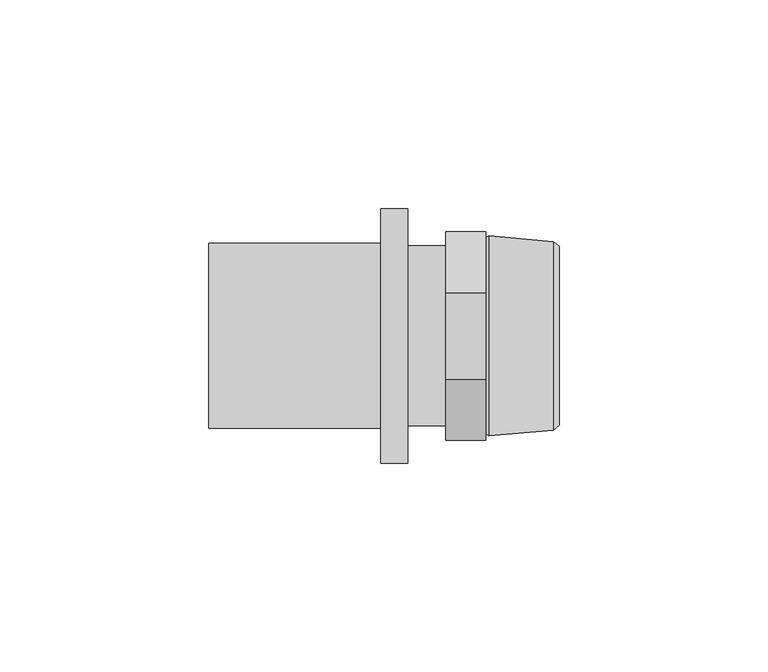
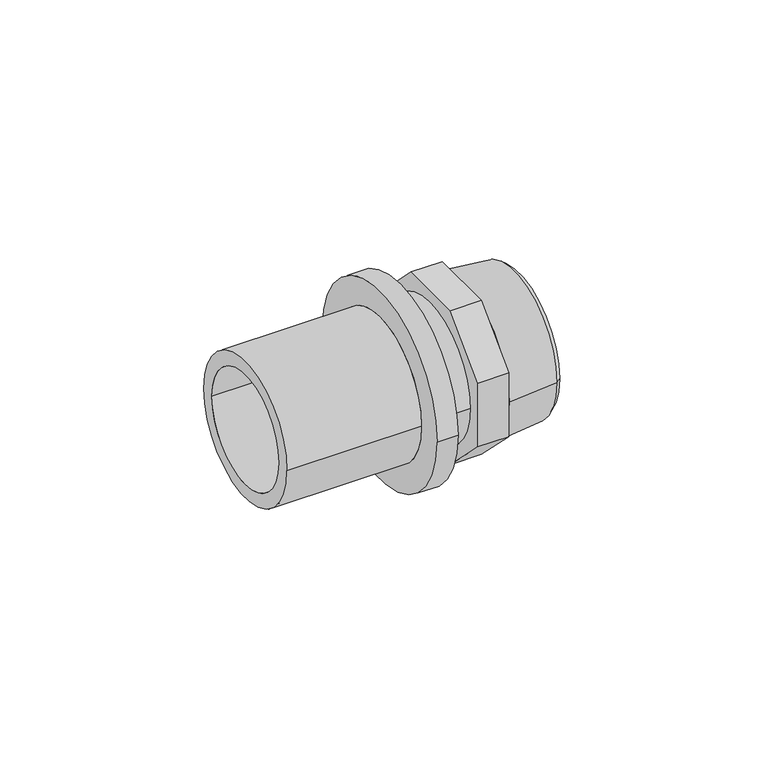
"""IFC4 building model written with IfcOpenShell, lengths in millimetres: pipe fitting geometry, REHAU_RAUTITAN_Adaptor_RX+ stabil, with external thread : REHAU_RAUTITAN_Adaptor_RX+ stabil, with external thread."""

from ifc_helpers import new_model, si_unit, point, frame, origin, origin_2d, place, context, project, spatial, polyline, circle_curve, trimmed, segment, composite_curve, outline, extrude, source, transform, mapped, element, save
from ifc_brep_helpers import plane_surface, cylinder_surface, revolved_surface, advanced_brep


def pipe_fitting_1aa5390b(model_context):
    return source(origin(), model_context, "Body", "SolidModel", [
        advanced_brep(
        [(10.6032803, 18.75, 0.0), (10.6032803, -18.75, 0.0), (27.2, -18.75, 0.0), (27.2, 18.75, 0.0), (9.5, 17.6467197, 0.0), (9.5, -17.6467197, 0.0), (10.2406902, 24.0, 0.0), (10.2406902, -24.0, 0.0), (9.5, -23.5, 0.0), (9.5, 23.5, 0.0), (25.7000007, 22.6, 0.0), (25.7000007, -22.6, 0.0), (27.2, 21.45, 0.0), (27.2, -21.45, 0.0)],
        [
            (0, 1, circle_curve(frame((10.6032803, 0.0, 0.0), z_axis=(-1.0, 0.0, 0.0), x_axis=(0.0, -1.0, 0.0)), 18.75)),
            (1, 2),
            (2, 3, circle_curve(frame((27.2, 0.0, 0.0), z_axis=(1.0, 0.0, 0.0), x_axis=(0.0, -1.0, 0.0)), 18.75)),
            (3, 0),
            (4, 5, circle_curve(frame((9.5, 0.0, 0.0), z_axis=(-1.0, 0.0, 0.0), x_axis=(0.0, -1.0, 0.0)), 17.6467197)),
            (5, 1),
            (0, 4),
            (6, 7, circle_curve(frame((10.2406902, 0.0, 0.0), z_axis=(-1.0, 0.0, 0.0), x_axis=(0.0, -1.0, 0.0)), 24.0)),
            (7, 8),
            (8, 9, circle_curve(frame((9.5, 0.0, 0.0), z_axis=(1.0, 0.0, 0.0), x_axis=(0.0, -1.0, 0.0)), 23.5)),
            (9, 6),
            (10, 11, circle_curve(frame((25.7000007, 0.0, 0.0), z_axis=(-1.0, 0.0, 0.0), x_axis=(0.0, -1.0, 0.0)), 22.6)),
            (11, 7),
            (6, 10),
            (12, 13, circle_curve(frame((27.2, 0.0, 0.0), z_axis=(-1.0, 0.0, 0.0), x_axis=(0.0, -1.0, 0.0)), 21.45)),
            (13, 11),
            (10, 12),
            (1, 0, circle_curve(frame((10.6032803, 0.0, 0.0), z_axis=(-1.0, 0.0, 0.0), x_axis=(0.0, 1.0, 0.0)), 18.75)),
            (3, 2, circle_curve(frame((27.2, 0.0, 0.0), z_axis=(1.0, 0.0, 0.0), x_axis=(0.0, 1.0, 0.0)), 18.75)),
            (5, 4, circle_curve(frame((9.5, 0.0, 0.0), z_axis=(-1.0, 0.0, 0.0), x_axis=(0.0, 1.0, 0.0)), 17.6467197)),
            (8, 9, circle_curve(frame((9.5, 0.0, 0.0), z_axis=(-1.0, 0.0, 0.0), x_axis=(0.0, 1.0, 0.0)), 23.5)),
            (7, 6, circle_curve(frame((10.2406902, 0.0, 0.0), z_axis=(-1.0, 0.0, 0.0), x_axis=(0.0, 1.0, 0.0)), 24.0)),
            (11, 10, circle_curve(frame((25.7000007, 0.0, 0.0), z_axis=(-1.0, 0.0, 0.0), x_axis=(0.0, 1.0, 0.0)), 22.6)),
            (13, 12, circle_curve(frame((27.2, 0.0, 0.0), z_axis=(-1.0, 0.0, 0.0), x_axis=(0.0, 1.0, 0.0)), 21.45)),
        ],
        [
            revolved_surface(polyline([(27.2, -18.75, 0.0), (10.6032803, -18.75, 0.0)]), (0.0, 0.0, 0.0), (1.0, 0.0, 0.0)),
            revolved_surface(polyline([(10.6032803, -18.75, 0.0), (9.5, -17.6467197, 0.0)]), (0.0, 0.0, 0.0), (1.0, 0.0, 0.0)),
            revolved_surface(polyline([(9.5, -23.5, 0.0), (10.2406902, -24.0, 0.0)]), (0.0, 0.0, 0.0), (1.0, 0.0, 0.0)),
            revolved_surface(polyline([(10.2406902, -24.0, 0.0), (25.7000007, -22.6, 0.0)]), (0.0, 0.0, 0.0), (1.0, 0.0, 0.0)),
            revolved_surface(polyline([(25.7000007, -22.6, 0.0), (27.2, -21.45, 0.0)]), (0.0, 0.0, 0.0), (1.0, 0.0, 0.0)),
            revolved_surface(polyline([(27.2, 18.75, 0.0), (10.6032803, 18.75, 0.0)]), (0.0, 0.0, 0.0), (1.0, 0.0, 0.0)),
            revolved_surface(polyline([(10.6032803, 18.75, 0.0), (9.5, 17.6467197, 0.0)]), (0.0, 0.0, 0.0), (1.0, 0.0, 0.0)),
            plane_surface(frame((9.5, 0.0, 0.0), z_axis=(-1.0, 0.0, 0.0), x_axis=(0.0, 1.0, 0.0))),
            revolved_surface(polyline([(9.5, 23.5, 0.0), (10.2406902, 24.0, 0.0)]), (0.0, 0.0, 0.0), (1.0, 0.0, 0.0)),
            revolved_surface(polyline([(10.2406902, 24.0, 0.0), (25.7000007, 22.6, 0.0)]), (0.0, 0.0, 0.0), (1.0, 0.0, 0.0)),
            revolved_surface(polyline([(25.7000007, 22.6, 0.0), (27.2, 21.45, 0.0)]), (0.0, 0.0, 0.0), (1.0, 0.0, 0.0)),
            plane_surface(frame((27.2, 0.0, 0.0), z_axis=(1.0, 0.0, 0.0), x_axis=(0.0, 1.0, 0.0))),
        ],
        [
            (0, [[1, 2, 3, 4]]),
            (1, [[5, 6, -1, 7]]),
            (2, [[8, 9, 10, 11]]),
            (3, [[12, 13, -8, 14]]),
            (4, [[15, 16, -12, 17]]),
            (5, [[18, -4, 19, -2]]),
            (6, [[20, -7, -18, -6]]),
            (7, [[21, -10], [-20, -5]]),
            (8, [[22, -11, -21, -9]]),
            (9, [[23, -14, -22, -13]]),
            (10, [[24, -17, -23, -16]]),
            (11, [[-24, -15], [-19, -3]]),
        ],
    ),
        extrude(outline(polyline([(-10.3553391, -25.0), (-25.0, -10.3553391), (-25.0, 10.3553391), (-10.3553391, 25.0), (10.3553391, 25.0), (25.0, 10.3553391), (25.0, -10.3553391), (10.3553391, -25.0), (-10.3553391, -25.0)]), holes=[composite_curve([segment(trimmed(circle_curve(origin_2d(), 17.75), [point((-17.75, 0.0))], [point((17.75, 0.0))], True, "CARTESIAN"), True, "CONTINUOUS"), segment(trimmed(circle_curve(origin_2d(), 17.75), [point((17.75, 0.0))], [point((-17.75, 0.0))], True, "CARTESIAN"), True, "CONTINUOUS")], self_intersect=False)]), frame((0.0, 0.0, 0.0), z_axis=(1.0, 0.0, 0.0), x_axis=(0.0, 1.0, 0.0)), (0.0, 0.0, 1.0), 9.5),
        advanced_brep(
        [(-56.9, 17.75, 0.0), (-56.9, -17.75, 0.0), (0.0, -17.75, 0.0), (0.0, 17.75, 0.0), (-15.6, 22.15, 0.0), (-15.6, -22.15, 0.0), (-56.9, -22.15, 0.0), (-56.9, 22.15, 0.0), (-9.2, 30.5, 0.0), (-9.2, -30.5, 0.0), (-15.6, -30.5, 0.0), (-15.6, 30.5, 0.0), (0.0, 21.55, 0.0), (0.0, -21.55, 0.0), (-9.2, -21.55, 0.0), (-9.2, 21.55, 0.0)],
        [
            (0, 1, circle_curve(frame((-56.9, 0.0, 0.0), z_axis=(-1.0, 0.0, 0.0), x_axis=(0.0, -1.0, 0.0)), 17.75)),
            (1, 2),
            (2, 3, circle_curve(frame((0.0, 0.0, 0.0), z_axis=(1.0, 0.0, 0.0), x_axis=(0.0, -1.0, 0.0)), 17.75)),
            (3, 0),
            (4, 5, circle_curve(frame((-15.6, 0.0, 0.0), z_axis=(-1.0, 0.0, 0.0), x_axis=(0.0, -1.0, 0.0)), 22.15)),
            (5, 6),
            (6, 7, circle_curve(frame((-56.9, 0.0, 0.0), z_axis=(1.0, 0.0, 0.0), x_axis=(0.0, -1.0, 0.0)), 22.15)),
            (7, 4),
            (8, 9, circle_curve(frame((-9.2, 0.0, 0.0), z_axis=(-1.0, 0.0, 0.0), x_axis=(0.0, -1.0, 0.0)), 30.5)),
            (9, 10),
            (10, 11, circle_curve(frame((-15.6, 0.0, 0.0), z_axis=(1.0, 0.0, 0.0), x_axis=(0.0, -1.0, 0.0)), 30.5)),
            (11, 8),
            (12, 13, circle_curve(frame((0.0, 0.0, 0.0), z_axis=(-1.0, 0.0, 0.0), x_axis=(0.0, -1.0, 0.0)), 21.55)),
            (13, 14),
            (14, 15, circle_curve(frame((-9.2, 0.0, 0.0), z_axis=(1.0, 0.0, 0.0), x_axis=(0.0, -1.0, 0.0)), 21.55)),
            (15, 12),
            (12, 13, circle_curve(frame((0.0, 0.0, 0.0), z_axis=(1.0, 0.0, 0.0), x_axis=(0.0, 1.0, 0.0)), 21.55)),
            (2, 3, circle_curve(frame((0.0, 0.0, 0.0), z_axis=(-1.0, 0.0, 0.0), x_axis=(0.0, 1.0, 0.0)), 17.75)),
            (1, 0, circle_curve(frame((-56.9, 0.0, 0.0), z_axis=(-1.0, 0.0, 0.0), x_axis=(0.0, 1.0, 0.0)), 17.75)),
            (6, 7, circle_curve(frame((-56.9, 0.0, 0.0), z_axis=(-1.0, 0.0, 0.0), x_axis=(0.0, 1.0, 0.0)), 22.15)),
            (5, 4, circle_curve(frame((-15.6, 0.0, 0.0), z_axis=(-1.0, 0.0, 0.0), x_axis=(0.0, 1.0, 0.0)), 22.15)),
            (10, 11, circle_curve(frame((-15.6, 0.0, 0.0), z_axis=(-1.0, 0.0, 0.0), x_axis=(0.0, 1.0, 0.0)), 30.5)),
            (9, 8, circle_curve(frame((-9.2, 0.0, 0.0), z_axis=(-1.0, 0.0, 0.0), x_axis=(0.0, 1.0, 0.0)), 30.5)),
            (14, 15, circle_curve(frame((-9.2, 0.0, 0.0), z_axis=(-1.0, 0.0, 0.0), x_axis=(0.0, 1.0, 0.0)), 21.55)),
        ],
        [
            revolved_surface(polyline([(0.0, -17.75, 0.0), (-56.9, -17.75, 0.0)]), (0.0, 0.0, 0.0), (1.0, 0.0, 0.0)),
            cylinder_surface(frame((0.0, 0.0, 0.0), z_axis=(1.0, 0.0, 0.0), x_axis=(0.0, -1.0, 0.0)), 22.15),
            cylinder_surface(frame((0.0, 0.0, 0.0), z_axis=(1.0, 0.0, 0.0), x_axis=(0.0, -1.0, 0.0)), 30.5),
            cylinder_surface(frame((0.0, 0.0, 0.0), z_axis=(1.0, 0.0, 0.0), x_axis=(0.0, -1.0, 0.0)), 21.55),
            plane_surface(frame((0.0, 0.0, 0.0), z_axis=(1.0, 0.0, 0.0), x_axis=(0.0, 1.0, 0.0))),
            revolved_surface(polyline([(0.0, 17.75, 0.0), (-56.9, 17.75, 0.0)]), (0.0, 0.0, 0.0), (1.0, 0.0, 0.0)),
            plane_surface(frame((-56.9, 0.0, 0.0), z_axis=(-1.0, 0.0, 0.0), x_axis=(0.0, 1.0, 0.0))),
            cylinder_surface(frame((0.0, 0.0, 0.0), z_axis=(1.0, 0.0, 0.0), x_axis=(0.0, 1.0, 0.0)), 22.15),
            plane_surface(frame((-15.6, 0.0, 0.0), z_axis=(-1.0, 0.0, 0.0), x_axis=(0.0, 1.0, 0.0))),
            cylinder_surface(frame((0.0, 0.0, 0.0), z_axis=(1.0, 0.0, 0.0), x_axis=(0.0, 1.0, 0.0)), 30.5),
            plane_surface(frame((-9.2, 0.0, 0.0), z_axis=(1.0, 0.0, 0.0), x_axis=(0.0, 1.0, 0.0))),
            cylinder_surface(frame((0.0, 0.0, 0.0), z_axis=(1.0, 0.0, 0.0), x_axis=(0.0, 1.0, 0.0)), 21.55),
        ],
        [
            (0, [[1, 2, 3, 4]]),
            (1, [[5, 6, 7, 8]]),
            (2, [[9, 10, 11, 12]]),
            (3, [[13, 14, 15, 16]]),
            (4, [[17, -13], [18, -3]]),
            (5, [[19, -4, -18, -2]]),
            (6, [[20, -7], [-19, -1]]),
            (7, [[21, -8, -20, -6]]),
            (8, [[22, -11], [-21, -5]]),
            (9, [[23, -12, -22, -10]]),
            (10, [[-23, -9], [24, -15]]),
            (11, [[-17, -16, -24, -14]]),
        ],
    ),
    ])


if __name__ == "__main__":
    model = new_model("IFC4")
    model_context = context("Model", 3, world=origin())
    ifc_project = project(units=[si_unit("LENGTHUNIT", "METRE", prefix="MILLI")], contexts=[model_context])
    site = spatial("IfcSite", under=ifc_project)
    building = spatial("IfcBuilding", under=site)
    placement = place(None, origin())
    pipe_fitting_shape = pipe_fitting_1aa5390b(model_context)
    element("IfcPipeFitting", 1, ObjectType="REHAU_RAUTITAN_Adaptor_RX+ stabil, with external thread : REHAU_RAUTITAN_Adaptor_RX+ stabil, with external thread", at=placement, inside=building, context=model_context, shape_type="MappedRepresentation", body=[
        mapped(pipe_fitting_shape, transform((0.0, 0.0, 0.0), x_axis=(1.0, 0.0, 0.0), y_axis=(0.0, 1.0, 0.0), z_axis=(0.0, 0.0, 1.0))),
    ])
    save(model, "model.ifc")
